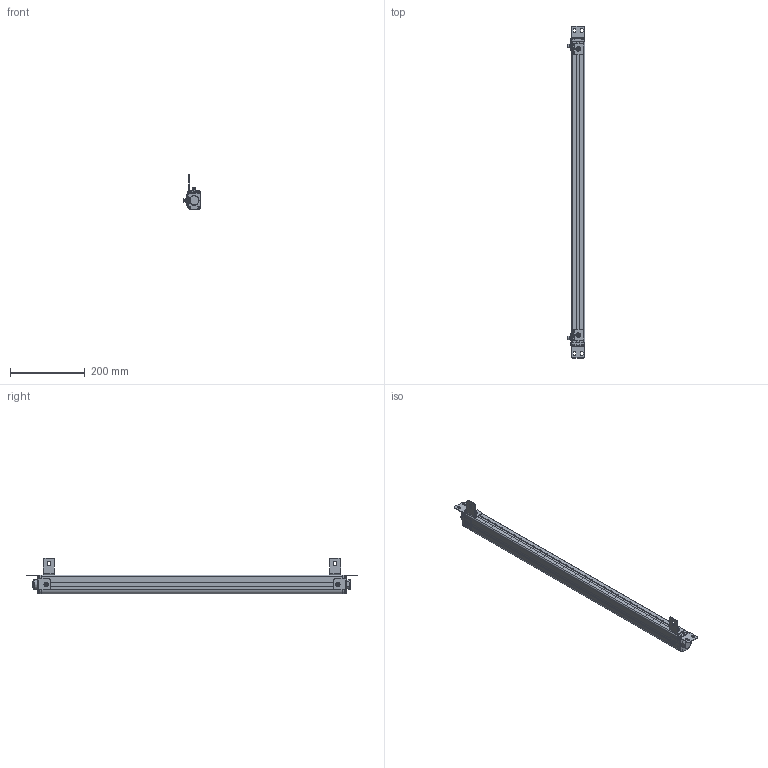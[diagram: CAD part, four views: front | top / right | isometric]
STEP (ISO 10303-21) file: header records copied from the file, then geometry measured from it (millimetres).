
FILE_DESCRIPTION((''),'2;1');
FILE_NAME('ESN--000_ASM','2021-08-11T16:24:19',('18720616900'),(''),'CREO PARAMETRIC BY PTC INC, 2019010','CREO PARAMETRIC BY PTC INC, 2019010','');
FILE_SCHEMA(('CONFIG_CONTROL_DESIGN'));
Length unit declared in the file: millimetre
Products named in the file (22): 00; 000; _0001; 4000; 4--0001; ESN_40001_ASM; L10001; M6-8--0001; M6-1--00; M6-1-00; M6-80001_ASM; L1--0001_ASM; _0002; 0005; ST-3-120001; H1--000; H1--0001_ASM; H1--0003_ASM; ESN--000_ASM
Assembly tree (34 placements, depth 4):
  ESN--000_ASM
    00
    000
    _0001
    000
    ESN_40001_ASM
      4000
      4--0001  x4
    L1--0001_ASM  x2
      L10001
      M6-80001_ASM
        M6-8--0001
        M6-1--00
        M6-1-00
        00
    _0002
    0005
    ST-3-120001  x8
    H1--0001_ASM
      H1--000
      M6-80001_ASM
        M6-8--0001
        M6-1--00
        M6-1-00
        00
    H1--0003_ASM
      H1--000
      M6-80001_ASM
        M6-8--0001
        M6-1--00
        M6-1-00
        00
Bounding box: 46.5 x 887 x 94.95 mm (x, y, z)
Volume: 1258515.3 mm3; surface area: 271973.2 mm2
Topology: 39 solids, 39 shells, 1727 faces, 4555 edges, 2925 vertices
Faces by surface type: plane 541, cylinder 404, bspline 362, cone 291, torus 105, sphere 24
Entity records: 45714 total; most frequent: CARTESIAN_POINT 24222, ORIENTED_EDGE 4766, DIRECTION 3842, EDGE_CURVE 2383, VERTEX_POINT 1546, AXIS2_PLACEMENT_3D 1400, VECTOR 1042, LINE 1042
